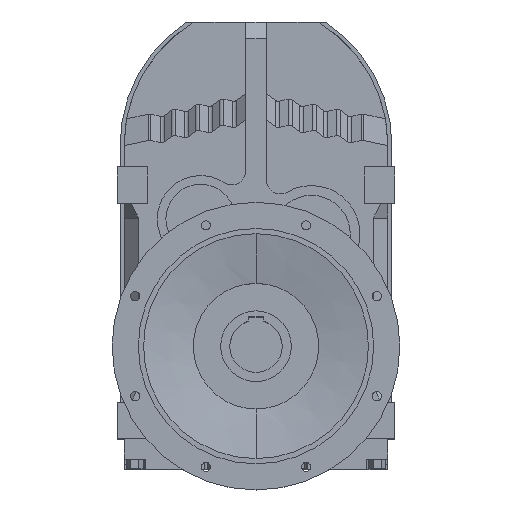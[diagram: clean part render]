
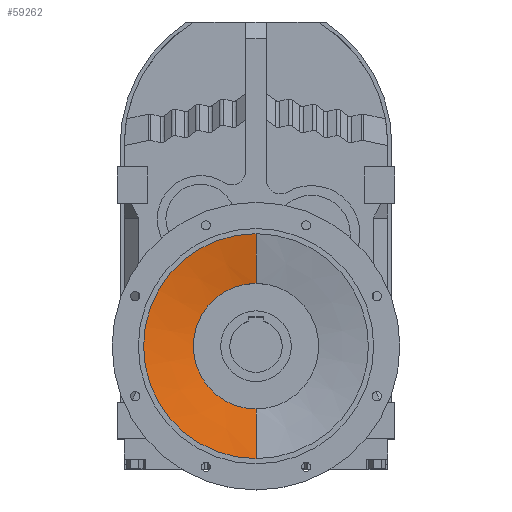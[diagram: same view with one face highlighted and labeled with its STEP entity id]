
A CAD part, top view. The second image highlights one B-rep face of the part: STEP entity #59262.
In plain terms, the highlighted conical face has half-angle 78.98 degrees and reference radius 215 mm.
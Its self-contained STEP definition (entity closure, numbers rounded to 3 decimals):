
#58899 = CYLINDRICAL_SURFACE('',#58900,215.);
#58900 = AXIS2_PLACEMENT_3D('',#58901,#58902,#58903);
#58901 = CARTESIAN_POINT('',(0.,-382.6,0.));
#58902 = DIRECTION('',(0.,0.,-1.));
#58903 = DIRECTION('',(0.,1.,0.));
#58966 = CYLINDRICAL_SURFACE('',#58967,120.);
#58967 = AXIS2_PLACEMENT_3D('',#58968,#58969,#58970);
#58968 = CARTESIAN_POINT('',(0.,-382.6,0.));
#58969 = DIRECTION('',(0.,0.,-1.));
#58970 = DIRECTION('',(0.,1.,0.));
#58982 = VERTEX_POINT('',#58983);
#58983 = CARTESIAN_POINT('',(0.,-167.6,414.));
#59002 = EDGE_CURVE('',#59003,#58982,#59005,.T.);
#59003 = VERTEX_POINT('',#59004);
#59004 = CARTESIAN_POINT('',(0.,-597.6,414.));
#59005 = SURFACE_CURVE('',#59006,(#59011,#59017),.PCURVE_S1.);
#59006 = CIRCLE('',#59007,215.);
#59007 = AXIS2_PLACEMENT_3D('',#59008,#59009,#59010);
#59008 = CARTESIAN_POINT('',(0.,-382.6,414.));
#59009 = DIRECTION('',(0.,0.,-1.));
#59010 = DIRECTION('',(0.,1.,0.));
#59011 = PCURVE('',#58899,#59012);
#59012 = DEFINITIONAL_REPRESENTATION('',(#59013),#59016);
#59013 = B_SPLINE_CURVE_WITH_KNOTS('',1,(#59014,#59015),.UNSPECIFIED.,
  .F.,.F.,(2,2),(3.142,6.283),.PIECEWISE_BEZIER_KNOTS.);
#59014 = CARTESIAN_POINT('',(3.142,-414.));
#59015 = CARTESIAN_POINT('',(6.283,-414.));
#59016 = ( GEOMETRIC_REPRESENTATION_CONTEXT(2) 
PARAMETRIC_REPRESENTATION_CONTEXT() REPRESENTATION_CONTEXT('2D SPACE',''
  ) );
#59017 = PCURVE('',#59018,#59023);
#59018 = CONICAL_SURFACE('',#59019,215.,1.378);
#59019 = AXIS2_PLACEMENT_3D('',#59020,#59021,#59022);
#59020 = CARTESIAN_POINT('',(0.,-382.6,414.));
#59021 = DIRECTION('',(0.,0.,1.));
#59022 = DIRECTION('',(0.,-1.,0.));
#59023 = DEFINITIONAL_REPRESENTATION('',(#59024),#59050);
#59024 = B_SPLINE_CURVE_WITH_KNOTS('',3,(#59025,#59026,#59027,#59028,
    #59029,#59030,#59031,#59032,#59033,#59034,#59035,#59036,#59037,
    #59038,#59039,#59040,#59041,#59042,#59043,#59044,#59045,#59046,
    #59047,#59048,#59049),.UNSPECIFIED.,.F.,.F.,(4,1,1,1,1,1,1,1,1,1,1,1
    ,1,1,1,1,1,1,1,1,1,1,4),(3.142,3.284,3.427
    ,3.57,3.713,3.856,3.998,
    4.141,4.284,4.427,4.57,
    4.712,4.855,4.998,5.141,
    5.284,5.426,5.569,5.712,
    5.855,5.998,6.14,6.283),
  .QUASI_UNIFORM_KNOTS.);
#59025 = CARTESIAN_POINT('',(6.283,0.));
#59026 = CARTESIAN_POINT('',(6.236,0.));
#59027 = CARTESIAN_POINT('',(6.14,0.));
#59028 = CARTESIAN_POINT('',(5.998,0.));
#59029 = CARTESIAN_POINT('',(5.855,0.));
#59030 = CARTESIAN_POINT('',(5.712,0.));
#59031 = CARTESIAN_POINT('',(5.569,0.));
#59032 = CARTESIAN_POINT('',(5.426,0.));
#59033 = CARTESIAN_POINT('',(5.284,0.));
#59034 = CARTESIAN_POINT('',(5.141,0.));
#59035 = CARTESIAN_POINT('',(4.998,0.));
#59036 = CARTESIAN_POINT('',(4.855,0.));
#59037 = CARTESIAN_POINT('',(4.712,0.));
#59038 = CARTESIAN_POINT('',(4.57,0.));
#59039 = CARTESIAN_POINT('',(4.427,0.));
#59040 = CARTESIAN_POINT('',(4.284,0.));
#59041 = CARTESIAN_POINT('',(4.141,0.));
#59042 = CARTESIAN_POINT('',(3.998,0.));
#59043 = CARTESIAN_POINT('',(3.856,0.));
#59044 = CARTESIAN_POINT('',(3.713,0.));
#59045 = CARTESIAN_POINT('',(3.57,0.));
#59046 = CARTESIAN_POINT('',(3.427,0.));
#59047 = CARTESIAN_POINT('',(3.284,0.));
#59048 = CARTESIAN_POINT('',(3.189,0.));
#59049 = CARTESIAN_POINT('',(3.142,0.));
#59050 = ( GEOMETRIC_REPRESENTATION_CONTEXT(2) 
PARAMETRIC_REPRESENTATION_CONTEXT() REPRESENTATION_CONTEXT('2D SPACE',''
  ) );
#59089 = CONICAL_SURFACE('',#59090,215.,1.378);
#59090 = AXIS2_PLACEMENT_3D('',#59091,#59092,#59093);
#59091 = CARTESIAN_POINT('',(0.,-382.6,414.));
#59092 = DIRECTION('',(0.,0.,1.));
#59093 = DIRECTION('',(0.,-1.,0.));
#59128 = EDGE_CURVE('',#59129,#59131,#59133,.T.);
#59129 = VERTEX_POINT('',#59130);
#59130 = CARTESIAN_POINT('',(0.,-502.6,395.5));
#59131 = VERTEX_POINT('',#59132);
#59132 = CARTESIAN_POINT('',(0.,-262.6,395.5));
#59133 = SURFACE_CURVE('',#59134,(#59139,#59145),.PCURVE_S1.);
#59134 = CIRCLE('',#59135,120.);
#59135 = AXIS2_PLACEMENT_3D('',#59136,#59137,#59138);
#59136 = CARTESIAN_POINT('',(0.,-382.6,395.5));
#59137 = DIRECTION('',(0.,0.,-1.));
#59138 = DIRECTION('',(0.,1.,0.));
#59139 = PCURVE('',#58966,#59140);
#59140 = DEFINITIONAL_REPRESENTATION('',(#59141),#59144);
#59141 = B_SPLINE_CURVE_WITH_KNOTS('',1,(#59142,#59143),.UNSPECIFIED.,
  .F.,.F.,(2,2),(3.142,6.283),.PIECEWISE_BEZIER_KNOTS.);
#59142 = CARTESIAN_POINT('',(3.142,-395.5));
#59143 = CARTESIAN_POINT('',(6.283,-395.5));
#59144 = ( GEOMETRIC_REPRESENTATION_CONTEXT(2) 
PARAMETRIC_REPRESENTATION_CONTEXT() REPRESENTATION_CONTEXT('2D SPACE',''
  ) );
#59145 = PCURVE('',#59018,#59146);
#59146 = DEFINITIONAL_REPRESENTATION('',(#59147),#59173);
#59147 = B_SPLINE_CURVE_WITH_KNOTS('',3,(#59148,#59149,#59150,#59151,
    #59152,#59153,#59154,#59155,#59156,#59157,#59158,#59159,#59160,
    #59161,#59162,#59163,#59164,#59165,#59166,#59167,#59168,#59169,
    #59170,#59171,#59172),.UNSPECIFIED.,.F.,.F.,(4,1,1,1,1,1,1,1,1,1,1,1
    ,1,1,1,1,1,1,1,1,1,1,4),(3.142,3.284,3.427
    ,3.57,3.713,3.856,3.998,
    4.141,4.284,4.427,4.57,
    4.712,4.855,4.998,5.141,
    5.284,5.426,5.569,5.712,
    5.855,5.998,6.14,6.283),
  .QUASI_UNIFORM_KNOTS.);
#59148 = CARTESIAN_POINT('',(6.283,-18.5));
#59149 = CARTESIAN_POINT('',(6.236,-18.5));
#59150 = CARTESIAN_POINT('',(6.14,-18.5));
#59151 = CARTESIAN_POINT('',(5.998,-18.5));
#59152 = CARTESIAN_POINT('',(5.855,-18.5));
#59153 = CARTESIAN_POINT('',(5.712,-18.5));
#59154 = CARTESIAN_POINT('',(5.569,-18.5));
#59155 = CARTESIAN_POINT('',(5.426,-18.5));
#59156 = CARTESIAN_POINT('',(5.284,-18.5));
#59157 = CARTESIAN_POINT('',(5.141,-18.5));
#59158 = CARTESIAN_POINT('',(4.998,-18.5));
#59159 = CARTESIAN_POINT('',(4.855,-18.5));
#59160 = CARTESIAN_POINT('',(4.712,-18.5));
#59161 = CARTESIAN_POINT('',(4.57,-18.5));
#59162 = CARTESIAN_POINT('',(4.427,-18.5));
#59163 = CARTESIAN_POINT('',(4.284,-18.5));
#59164 = CARTESIAN_POINT('',(4.141,-18.5));
#59165 = CARTESIAN_POINT('',(3.998,-18.5));
#59166 = CARTESIAN_POINT('',(3.856,-18.5));
#59167 = CARTESIAN_POINT('',(3.713,-18.5));
#59168 = CARTESIAN_POINT('',(3.57,-18.5));
#59169 = CARTESIAN_POINT('',(3.427,-18.5));
#59170 = CARTESIAN_POINT('',(3.284,-18.5));
#59171 = CARTESIAN_POINT('',(3.189,-18.5));
#59172 = CARTESIAN_POINT('',(3.142,-18.5));
#59173 = ( GEOMETRIC_REPRESENTATION_CONTEXT(2) 
PARAMETRIC_REPRESENTATION_CONTEXT() REPRESENTATION_CONTEXT('2D SPACE',''
  ) );
#59262 = ADVANCED_FACE('',(#59263),#59018,.F.);
#59263 = FACE_BOUND('',#59264,.F.);
#59264 = EDGE_LOOP('',(#59265,#59266,#59285,#59286));
#59265 = ORIENTED_EDGE('',*,*,#59128,.F.);
#59266 = ORIENTED_EDGE('',*,*,#59267,.T.);
#59267 = EDGE_CURVE('',#59129,#59003,#59268,.T.);
#59268 = SURFACE_CURVE('',#59269,(#59273,#59279),.PCURVE_S1.);
#59269 = LINE('',#59270,#59271);
#59270 = CARTESIAN_POINT('',(0.,-597.6,414.));
#59271 = VECTOR('',#59272,1.);
#59272 = DIRECTION('',(0.,-0.982,0.191));
#59273 = PCURVE('',#59018,#59274);
#59274 = DEFINITIONAL_REPRESENTATION('',(#59275),#59278);
#59275 = B_SPLINE_CURVE_WITH_KNOTS('',1,(#59276,#59277),.UNSPECIFIED.,
  .F.,.F.,(2,2),(-96.785,0.),
  .PIECEWISE_BEZIER_KNOTS.);
#59276 = CARTESIAN_POINT('',(6.283,-18.5));
#59277 = CARTESIAN_POINT('',(6.283,0.));
#59278 = ( GEOMETRIC_REPRESENTATION_CONTEXT(2) 
PARAMETRIC_REPRESENTATION_CONTEXT() REPRESENTATION_CONTEXT('2D SPACE',''
  ) );
#59279 = PCURVE('',#59089,#59280);
#59280 = DEFINITIONAL_REPRESENTATION('',(#59281),#59284);
#59281 = B_SPLINE_CURVE_WITH_KNOTS('',1,(#59282,#59283),.UNSPECIFIED.,
  .F.,.F.,(2,2),(-96.785,0.),
  .PIECEWISE_BEZIER_KNOTS.);
#59282 = CARTESIAN_POINT('',(0.,-18.5));
#59283 = CARTESIAN_POINT('',(0.,0.));
#59284 = ( GEOMETRIC_REPRESENTATION_CONTEXT(2) 
PARAMETRIC_REPRESENTATION_CONTEXT() REPRESENTATION_CONTEXT('2D SPACE',''
  ) );
#59285 = ORIENTED_EDGE('',*,*,#59002,.T.);
#59286 = ORIENTED_EDGE('',*,*,#59287,.F.);
#59287 = EDGE_CURVE('',#59131,#58982,#59288,.T.);
#59288 = SURFACE_CURVE('',#59289,(#59293,#59299),.PCURVE_S1.);
#59289 = LINE('',#59290,#59291);
#59290 = CARTESIAN_POINT('',(0.,-167.6,414.));
#59291 = VECTOR('',#59292,1.);
#59292 = DIRECTION('',(0.,0.982,0.191)
  );
#59293 = PCURVE('',#59018,#59294);
#59294 = DEFINITIONAL_REPRESENTATION('',(#59295),#59298);
#59295 = B_SPLINE_CURVE_WITH_KNOTS('',1,(#59296,#59297),.UNSPECIFIED.,
  .F.,.F.,(2,2),(-96.785,0.),
  .PIECEWISE_BEZIER_KNOTS.);
#59296 = CARTESIAN_POINT('',(3.142,-18.5));
#59297 = CARTESIAN_POINT('',(3.142,0.));
#59298 = ( GEOMETRIC_REPRESENTATION_CONTEXT(2) 
PARAMETRIC_REPRESENTATION_CONTEXT() REPRESENTATION_CONTEXT('2D SPACE',''
  ) );
#59299 = PCURVE('',#59089,#59300);
#59300 = DEFINITIONAL_REPRESENTATION('',(#59301),#59304);
#59301 = B_SPLINE_CURVE_WITH_KNOTS('',1,(#59302,#59303),.UNSPECIFIED.,
  .F.,.F.,(2,2),(-96.785,0.),
  .PIECEWISE_BEZIER_KNOTS.);
#59302 = CARTESIAN_POINT('',(3.142,-18.5));
#59303 = CARTESIAN_POINT('',(3.142,0.));
#59304 = ( GEOMETRIC_REPRESENTATION_CONTEXT(2) 
PARAMETRIC_REPRESENTATION_CONTEXT() REPRESENTATION_CONTEXT('2D SPACE',''
  ) );
